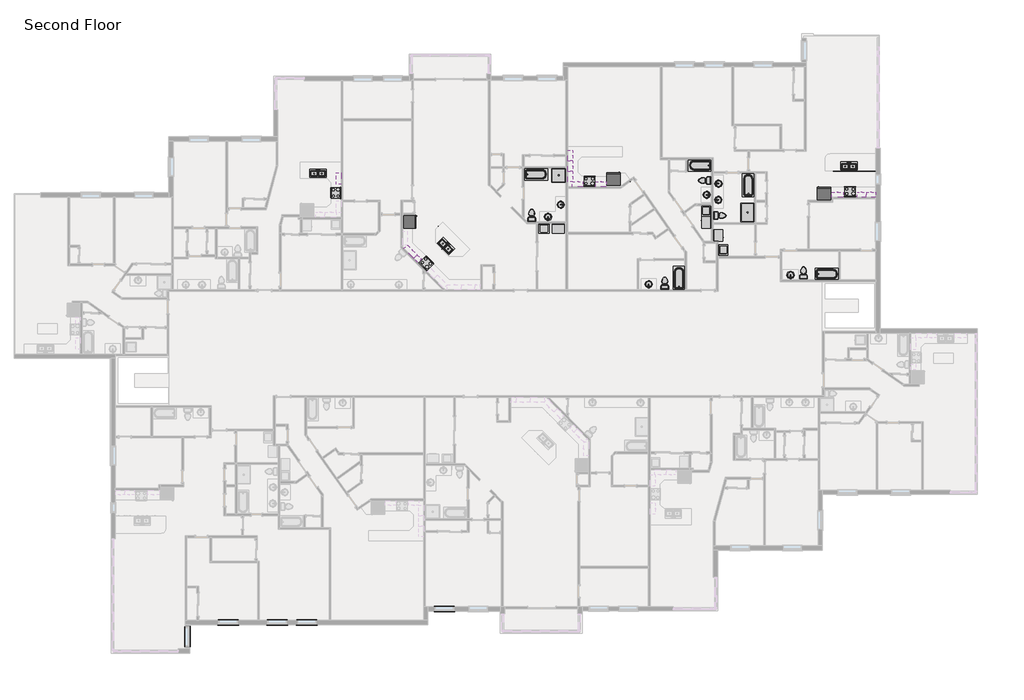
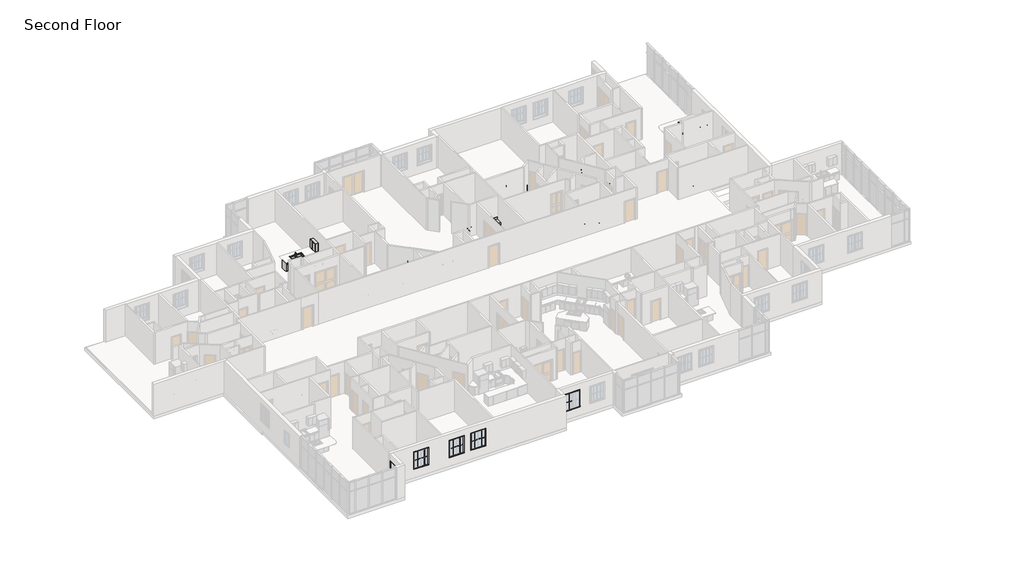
# One storey, part 16 of 17: 50 furniture elements, 32 proxies, 22 flow terminals.
"""IFC4 building model written with IfcOpenShell, lengths in millimetres."""

from ifc_helpers import new_model, si_unit, origin, place, context, project, spatial, transform, mapped, element, save
from components import proxy_6b4a07a9, muntin_pattern_2x2_muntin_pattern_2x2_6dad3731, muntin_pattern_2x2_muntin_pattern_2x2_a30a3345, proxy_fbb4c072, proxy_93150df1, proxy_9109806d, trim_window_exterior_flat_with_sill_92b9b949, trim_window_interior_flat_picture_frame_3bb882cf, proxy_718fa39f, flow_terminal_54cced83, flow_terminal_5dba0d75, flow_terminal_a53be723, flow_terminal_d49f872f, toilet_domestic_3d_toilet_domestic_3d_f7549cf7, toilet_domestic_3d_toilet_domestic_3d_183bbd19, tub_rectangular_3d_tub_rectangular_3d_72a4d900, tub_rectangular_3d_tub_rectangular_3d_cbc2c449, furniture_0fc2bd2a, furniture_337523c0, furniture_6e8794dd, furniture_07bc9410, furniture_6ace90bf, furniture_b282fead, furniture_6a014568, furniture_338da5bd, furniture_b74d3f52, furniture_7de88fd5, furniture_b4094f2d, furniture_07c0da44, furniture_bfd559e3, base_cabinet_filler_base_cabinet_filler_dff9ed13, base_cabinet_filler_base_cabinet_filler_01d9e414, base_cabinet_filler_base_cabinet_filler_890d7b95, base_cabinet_filler_base_cabinet_filler_ec835e29, base_cabinet_filler_base_cabinet_filler_5f1ac9d6, base_cabinet_filler_base_cabinet_filler_783ad0b1, base_cabinet_filler_base_cabinet_filler_ca2a3ea1, furniture_de2c603d, furniture_a8c34398, furniture_09d05a5b, furniture_b1f16c95, furniture_c6a3367d, furniture_a47b5ef4, furniture_9117db5d, furniture_b34976c1

model = new_model("IFC4")

# Units and contexts
model_context = context("Model", 3, world=origin())
ifc_project = project(units=[si_unit("LENGTHUNIT", "METRE", prefix="MILLI")], contexts=[model_context])

# Site, building, storey
site = spatial("IfcSite", under=ifc_project)
building = spatial("IfcBuilding", under=site)
storey = spatial("IfcBuildingStorey", under=building, Name="Second Floor", Elevation=3048.0)

# Proxies
placement = place(None, origin())
proxy_shape = proxy_6b4a07a9(model_context)
element("IfcBuildingElementProxy", 1, Name="Dryer : 30\" x 25\" x 35\"", ObjectType="Dryer : 30\" x 25\" x 35\"", at=placement, inside=storey, context=model_context, shape_type="MappedRepresentation", body=[
    mapped(proxy_shape, transform((35783.3803438, 6069.89864, 3048.0), x_axis=(1.0, 0.0, 0.0), y_axis=(0.0, 1.0, 0.0), z_axis=(0.0, 0.0, 1.0))),
])
element("IfcBuildingElementProxy", 2, Name="Dryer : 30\" x 25\" x 35\"", ObjectType="Dryer : 30\" x 25\" x 35\"", at=placement, inside=storey, context=model_context, shape_type="MappedRepresentation", body=[
    mapped(proxy_shape, transform((45605.9742487, 7175.2177628, 3048.0), x_axis=(0.0, -1.0, 0.0), y_axis=(1.0, 0.0, 0.0), z_axis=(0.0, 0.0, 1.0))),
])
element("IfcBuildingElementProxy", 3, Name="Dryer : 30\" x 25\" x 35\"", ObjectType="Dryer : 30\" x 25\" x 35\"", at=placement, inside=storey, context=model_context, shape_type="MappedRepresentation", body=[
    mapped(proxy_shape, transform((46984.5962563, 5488.2018914, 3048.0), x_axis=(0.0, 1.0, 0.0), y_axis=(-1.0, 0.0, 0.0), z_axis=(0.0, 0.0, 1.0))),
])
muntin_pattern_2x2_muntin_pattern_2x2_shape = muntin_pattern_2x2_muntin_pattern_2x2_6dad3731(model_context)
element("IfcBuildingElementProxy", 4, Name="Muntin Pattern_2x2 : Muntin Pattern_2x2", ObjectType="Muntin Pattern_2x2 : Muntin Pattern_2x2", at=placement, inside=storey, context=model_context, shape_type="MappedRepresentation", body=[
    mapped(muntin_pattern_2x2_muntin_pattern_2x2_shape, transform((20022.0240862, -19586.3365506, 4032.25), x_axis=(-1.0, 0.0, 0.0), y_axis=(0.0, -1.0, 0.0), z_axis=(0.0, 0.0, 1.0))),
])
element("IfcBuildingElementProxy", 5, Name="Muntin Pattern_2x2 : Muntin Pattern_2x2", ObjectType="Muntin Pattern_2x2 : Muntin Pattern_2x2", at=placement, inside=storey, context=model_context, shape_type="MappedRepresentation", body=[
    mapped(muntin_pattern_2x2_muntin_pattern_2x2_shape, transform((14867.9478712, -19586.3365506, 4032.25), x_axis=(-1.0, 0.0, 0.0), y_axis=(0.0, -1.0, 0.0), z_axis=(0.0, 0.0, 1.0))),
])
element("IfcBuildingElementProxy", 6, Name="Muntin Pattern_2x2 : Muntin Pattern_2x2", ObjectType="Muntin Pattern_2x2 : Muntin Pattern_2x2", at=placement, inside=storey, context=model_context, shape_type="MappedRepresentation", body=[
    mapped(muntin_pattern_2x2_muntin_pattern_2x2_shape, transform((18076.672872, -19586.3365506, 4032.25), x_axis=(-1.0, 0.0, 0.0), y_axis=(0.0, -1.0, 0.0), z_axis=(0.0, 0.0, 1.0))),
])
element("IfcBuildingElementProxy", 7, Name="Muntin Pattern_2x2 : Muntin Pattern_2x2", ObjectType="Muntin Pattern_2x2 : Muntin Pattern_2x2", at=placement, inside=storey, context=model_context, shape_type="MappedRepresentation", body=[
    mapped(muntin_pattern_2x2_muntin_pattern_2x2_shape, transform((12023.5634633, -20077.9243287, 4032.25), x_axis=(0.0, -1.0, 0.0), y_axis=(1.0, 0.0, 0.0), z_axis=(0.0, 0.0, 1.0))),
])
muntin_pattern_2x2_muntin_pattern_2x2_2_shape = muntin_pattern_2x2_muntin_pattern_2x2_a30a3345(model_context)
element("IfcBuildingElementProxy", 8, Name="Muntin Pattern_2x2 : Muntin Pattern_2x2", ObjectType="Muntin Pattern_2x2 : Muntin Pattern_2x2", at=placement, inside=storey, context=model_context, shape_type="MappedRepresentation", body=[
    mapped(muntin_pattern_2x2_muntin_pattern_2x2_2_shape, transform((19415.5990862, -19586.3365506, 4032.25), x_axis=(1.0, 0.0, 0.0), y_axis=(0.0, 1.0, 0.0), z_axis=(0.0, 0.0, 1.0))),
])
element("IfcBuildingElementProxy", 9, Name="Muntin Pattern_2x2 : Muntin Pattern_2x2", ObjectType="Muntin Pattern_2x2 : Muntin Pattern_2x2", at=placement, inside=storey, context=model_context, shape_type="MappedRepresentation", body=[
    mapped(muntin_pattern_2x2_muntin_pattern_2x2_2_shape, transform((14261.5228712, -19586.3365506, 4032.25), x_axis=(1.0, 0.0, 0.0), y_axis=(0.0, 1.0, 0.0), z_axis=(0.0, 0.0, 1.0))),
])
element("IfcBuildingElementProxy", 10, Name="Muntin Pattern_2x2 : Muntin Pattern_2x2", ObjectType="Muntin Pattern_2x2 : Muntin Pattern_2x2", at=placement, inside=storey, context=model_context, shape_type="MappedRepresentation", body=[
    mapped(muntin_pattern_2x2_muntin_pattern_2x2_2_shape, transform((28431.0115862, -18699.3191587, 4032.25), x_axis=(1.0, 0.0, 0.0), y_axis=(0.0, 1.0, 0.0), z_axis=(0.0, 0.0, 1.0))),
])
element("IfcBuildingElementProxy", 11, Name="Muntin Pattern_2x2 : Muntin Pattern_2x2", ObjectType="Muntin Pattern_2x2 : Muntin Pattern_2x2", at=placement, inside=storey, context=model_context, shape_type="MappedRepresentation", body=[
    mapped(muntin_pattern_2x2_muntin_pattern_2x2_2_shape, transform((17470.247872, -19586.3365506, 4032.25), x_axis=(1.0, 0.0, 0.0), y_axis=(0.0, 1.0, 0.0), z_axis=(0.0, 0.0, 1.0))),
])
element("IfcBuildingElementProxy", 12, Name="Muntin Pattern_2x2 : Muntin Pattern_2x2", ObjectType="Muntin Pattern_2x2 : Muntin Pattern_2x2", at=placement, inside=storey, context=model_context, shape_type="MappedRepresentation", body=[
    mapped(muntin_pattern_2x2_muntin_pattern_2x2_2_shape, transform((12023.5634633, -20684.3493287, 4032.25), x_axis=(0.0, 1.0, 0.0), y_axis=(-1.0, 0.0, 0.0), z_axis=(0.0, 0.0, 1.0))),
])
proxy_2_shape = proxy_fbb4c072(model_context)
element("IfcBuildingElementProxy", 13, Name="Range : 30\" x 26\"", ObjectType="Range : 30\" x 26\"", at=placement, inside=storey, context=model_context, shape_type="MappedRepresentation", body=[
    mapped(proxy_2_shape, transform((55706.1485135, 9105.3667096, 3048.0), x_axis=(-1.0, 0.0, 0.0), y_axis=(0.0, -1.0, 0.0), z_axis=(0.0, 0.0, 1.0))),
])
element("IfcBuildingElementProxy", 14, Name="Range : 30\" x 26\"", ObjectType="Range : 30\" x 26\"", at=placement, inside=storey, context=model_context, shape_type="MappedRepresentation", body=[
    mapped(proxy_2_shape, transform((38622.0783397, 9780.1410099, 3048.0), x_axis=(-1.0, 0.0, 0.0), y_axis=(0.0, -1.0, 0.0), z_axis=(0.0, 0.0, 1.0))),
])
element("IfcBuildingElementProxy", 15, Name="Range : 30\" x 26\"", ObjectType="Range : 30\" x 26\"", at=placement, inside=storey, context=model_context, shape_type="MappedRepresentation", body=[
    mapped(proxy_2_shape, transform((28043.6511381, 4045.4027795, 3048.0), x_axis=(-0.7071067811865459, 0.7071067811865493, 0.0), y_axis=(-0.7071067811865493, -0.7071067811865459, 0.0), z_axis=(0.0, 0.0, 1.0))),
])
element("IfcBuildingElementProxy", 16, Name="Range : 30\" x 26\"", ObjectType="Range : 30\" x 26\"", at=placement, inside=storey, context=model_context, shape_type="MappedRepresentation", body=[
    mapped(proxy_2_shape, transform((21305.5073571, 9084.405075, 3048.0), x_axis=(0.0, -1.0, 0.0), y_axis=(1.0, 0.0, 0.0), z_axis=(0.0, 0.0, 1.0))),
])
proxy_3_shape = proxy_93150df1(model_context)
element("IfcBuildingElementProxy", 17, Name="Refrigerator : 35\" x 32\" LH", ObjectType="Refrigerator : 35\" x 32\" LH", at=placement, inside=storey, context=model_context, shape_type="MappedRepresentation", body=[
    mapped(proxy_3_shape, transform((39817.0847694, 9590.3888634, 3048.0), x_axis=(-1.0, 0.0, 0.0), y_axis=(0.0, -1.0, 0.0), z_axis=(0.0, 0.0, 1.0))),
])
proxy_4_shape = proxy_9109806d(model_context)
element("IfcBuildingElementProxy", 18, Name="Refrigerator : 35\" x 32\" RH", ObjectType="Refrigerator : 35\" x 32\" RH", at=placement, inside=storey, context=model_context, shape_type="MappedRepresentation", body=[
    mapped(proxy_4_shape, transform((53624.9360135, 8648.9949749, 3048.0), x_axis=(-1.0, 0.0, 0.0), y_axis=(0.0, -1.0, 0.0), z_axis=(0.0, 0.0, 1.0))),
])
element("IfcBuildingElementProxy", 19, Name="Refrigerator : 35\" x 32\" RH", ObjectType="Refrigerator : 35\" x 32\" RH", at=placement, inside=storey, context=model_context, shape_type="MappedRepresentation", body=[
    mapped(proxy_4_shape, transform((26450.70388, 6811.7574244, 3048.0), x_axis=(0.0020172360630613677, 0.9999979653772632, 0.0), y_axis=(-0.9999979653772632, 0.0020172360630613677, 0.0), z_axis=(0.0, 0.0, 1.0))),
])
trim_window_exterior_flat_with_sill_shape = trim_window_exterior_flat_with_sill_92b9b949(model_context)
element("IfcBuildingElementProxy", 20, Name="Trim-Window-Exterior-Flat : with Sill", ObjectType="Trim-Window-Exterior-Flat : with Sill", at=placement, inside=storey, context=model_context, shape_type="MappedRepresentation", body=[
    mapped(trim_window_exterior_flat_with_sill_shape, transform((19718.8115862, -19595.8615506, 5486.4), x_axis=(1.0, 0.0, 0.0), y_axis=(0.0, 0.0, 1.0), z_axis=(0.0, -1.0, 0.0))),
])
element("IfcBuildingElementProxy", 21, Name="Trim-Window-Exterior-Flat : with Sill", ObjectType="Trim-Window-Exterior-Flat : with Sill", at=placement, inside=storey, context=model_context, shape_type="MappedRepresentation", body=[
    mapped(trim_window_exterior_flat_with_sill_shape, transform((14564.7353712, -19595.8615506, 5486.4), x_axis=(1.0, 0.0, 0.0), y_axis=(0.0, 0.0, 1.0), z_axis=(0.0, -1.0, 0.0))),
])
element("IfcBuildingElementProxy", 22, Name="Trim-Window-Exterior-Flat : with Sill", ObjectType="Trim-Window-Exterior-Flat : with Sill", at=placement, inside=storey, context=model_context, shape_type="MappedRepresentation", body=[
    mapped(trim_window_exterior_flat_with_sill_shape, transform((28734.2240862, -18708.8441587, 5486.4), x_axis=(1.0, 0.0, 0.0), y_axis=(0.0, 0.0, 1.0), z_axis=(0.0, -1.0, 0.0))),
])
element("IfcBuildingElementProxy", 23, Name="Trim-Window-Exterior-Flat : with Sill", ObjectType="Trim-Window-Exterior-Flat : with Sill", at=placement, inside=storey, context=model_context, shape_type="MappedRepresentation", body=[
    mapped(trim_window_exterior_flat_with_sill_shape, transform((17773.460372, -19595.8615506, 5486.4), x_axis=(1.0, 0.0, 0.0), y_axis=(0.0, 0.0, 1.0), z_axis=(0.0, -1.0, 0.0))),
])
element("IfcBuildingElementProxy", 24, Name="Trim-Window-Exterior-Flat : with Sill", ObjectType="Trim-Window-Exterior-Flat : with Sill", at=placement, inside=storey, context=model_context, shape_type="MappedRepresentation", body=[
    mapped(trim_window_exterior_flat_with_sill_shape, transform((12033.0884633, -20381.1368287, 5486.4), x_axis=(0.0, 1.0, 0.0), y_axis=(0.0, 0.0, 1.0), z_axis=(1.0, 0.0, 0.0))),
])
trim_window_interior_flat_picture_frame_shape = trim_window_interior_flat_picture_frame_3bb882cf(model_context)
element("IfcBuildingElementProxy", 25, Name="Trim-Window-Interior-Flat : Picture Frame", ObjectType="Trim-Window-Interior-Flat : Picture Frame", at=placement, inside=storey, context=model_context, shape_type="MappedRepresentation", body=[
    mapped(trim_window_interior_flat_picture_frame_shape, transform((19718.8115862, -19313.2865506, 5486.4), x_axis=(-1.0, 0.0, 0.0), y_axis=(0.0, 0.0, 1.0), z_axis=(0.0, 1.0, 0.0))),
])
element("IfcBuildingElementProxy", 26, Name="Trim-Window-Interior-Flat : Picture Frame", ObjectType="Trim-Window-Interior-Flat : Picture Frame", at=placement, inside=storey, context=model_context, shape_type="MappedRepresentation", body=[
    mapped(trim_window_interior_flat_picture_frame_shape, transform((14564.7353712, -19313.2865506, 5486.4), x_axis=(-1.0, 0.0, 0.0), y_axis=(0.0, 0.0, 1.0), z_axis=(0.0, 1.0, 0.0))),
])
element("IfcBuildingElementProxy", 27, Name="Trim-Window-Interior-Flat : Picture Frame", ObjectType="Trim-Window-Interior-Flat : Picture Frame", at=placement, inside=storey, context=model_context, shape_type="MappedRepresentation", body=[
    mapped(trim_window_interior_flat_picture_frame_shape, transform((28734.2240862, -18426.2691587, 5486.4), x_axis=(-1.0, 0.0, 0.0), y_axis=(0.0, 0.0, 1.0), z_axis=(0.0, 1.0, 0.0))),
])
element("IfcBuildingElementProxy", 28, Name="Trim-Window-Interior-Flat : Picture Frame", ObjectType="Trim-Window-Interior-Flat : Picture Frame", at=placement, inside=storey, context=model_context, shape_type="MappedRepresentation", body=[
    mapped(trim_window_interior_flat_picture_frame_shape, transform((17773.460372, -19313.2865506, 5486.4), x_axis=(-1.0, 0.0, 0.0), y_axis=(0.0, 0.0, 1.0), z_axis=(0.0, 1.0, 0.0))),
])
element("IfcBuildingElementProxy", 29, Name="Trim-Window-Interior-Flat : Picture Frame", ObjectType="Trim-Window-Interior-Flat : Picture Frame", at=placement, inside=storey, context=model_context, shape_type="MappedRepresentation", body=[
    mapped(trim_window_interior_flat_picture_frame_shape, transform((11750.5134633, -20381.1368287, 5486.4), x_axis=(0.0, -1.0, 0.0), y_axis=(0.0, 0.0, 1.0), z_axis=(-1.0, 0.0, 0.0))),
])
proxy_5_shape = proxy_718fa39f(model_context)
element("IfcBuildingElementProxy", 30, Name="Washer : 27\" x 25\" x 35\"", ObjectType="Washer : 27\" x 25\" x 35\"", at=placement, inside=storey, context=model_context, shape_type="MappedRepresentation", body=[
    mapped(proxy_5_shape, transform((34845.0746645, 6105.410079, 3048.0), x_axis=(1.0, 0.0, 0.0), y_axis=(0.0, 1.0, 0.0), z_axis=(0.0, 0.0, 1.0))),
])
element("IfcBuildingElementProxy", 31, Name="Washer : 27\" x 25\" x 35\"", ObjectType="Washer : 27\" x 25\" x 35\"", at=placement, inside=storey, context=model_context, shape_type="MappedRepresentation", body=[
    mapped(proxy_5_shape, transform((47265.412252, 4547.012838, 3048.0), x_axis=(0.0, 1.0, 0.0), y_axis=(-1.0, 0.0, 0.0), z_axis=(0.0, 0.0, 1.0))),
])
element("IfcBuildingElementProxy", 32, Name="Washer : 27\" x 25\" x 35\"", ObjectType="Washer : 27\" x 25\" x 35\"", at=placement, inside=storey, context=model_context, shape_type="MappedRepresentation", body=[
    mapped(proxy_5_shape, transform((45641.4856877, 7942.380883, 3048.0), x_axis=(0.0, -1.0, 0.0), y_axis=(1.0, 0.0, 0.0), z_axis=(0.0, 0.0, 1.0))),
])

# Flow terminals
flow_terminal_shape = flow_terminal_54cced83(model_context)
element("IfcFlowTerminal", 33, ObjectType="Shower Base-3D : 36\" x 36\"", at=placement, inside=storey, context=model_context, shape_type="MappedRepresentation", body=[
    mapped(flow_terminal_shape, transform((36225.8678001, 9849.9910099, 3048.0), x_axis=(1.0, 0.0, 0.0), y_axis=(0.0, 1.0, 0.0), z_axis=(0.0, 0.0, 1.0))),
])
flow_terminal_2_shape = flow_terminal_5dba0d75(model_context)
element("IfcFlowTerminal", 34, ObjectType="Shower Base-3D : 48\" x 34\"", at=placement, inside=storey, context=model_context, shape_type="MappedRepresentation", body=[
    mapped(flow_terminal_2_shape, transform((48606.6852525, 7416.8, 3048.0), x_axis=(0.0, 1.0, 0.0), y_axis=(-1.0, 0.0, 0.0), z_axis=(0.0, 0.0, 1.0))),
])
flow_terminal_3_shape = flow_terminal_a53be723(model_context)
element("IfcFlowTerminal", 35, ObjectType="Sink Kitchen-Double : 42\" x 21\"", at=placement, inside=storey, context=model_context, shape_type="MappedRepresentation", body=[
    mapped(flow_terminal_3_shape, transform((55238.0740966, 10470.4786098, 3048.0), x_axis=(1.0, 0.0, 0.0), y_axis=(0.0, 1.0, 0.0), z_axis=(0.0, 0.0, 1.0))),
])
element("IfcFlowTerminal", 36, ObjectType="Sink Kitchen-Double : 42\" x 21\"", at=placement, inside=storey, context=model_context, shape_type="MappedRepresentation", body=[
    mapped(flow_terminal_3_shape, transform((28820.7305792, 5237.5515776, 3048.0), x_axis=(0.7071067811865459, -0.7071067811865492, 0.0), y_axis=(0.7071067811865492, 0.7071067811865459, 0.0), z_axis=(0.0, 0.0, 1.0))),
])
element("IfcFlowTerminal", 37, ObjectType="Sink Kitchen-Double : 42\" x 21\"", at=placement, inside=storey, context=model_context, shape_type="MappedRepresentation", body=[
    mapped(flow_terminal_3_shape, transform((20432.5681165, 9996.4596739, 3048.0), x_axis=(1.0, 0.0, 0.0), y_axis=(0.0, 1.0, 0.0), z_axis=(0.0, 0.0, 1.0))),
])
flow_terminal_4_shape = flow_terminal_d49f872f(model_context)
element("IfcFlowTerminal", 38, ObjectType="Sink Vanity-Round : 19\" x 19\"", at=placement, inside=storey, context=model_context, shape_type="MappedRepresentation", body=[
    mapped(flow_terminal_4_shape, transform((51518.9261462, 3402.5686234, 3048.0), x_axis=(-1.0, 0.0, 0.0), y_axis=(0.0, -1.0, 0.0), z_axis=(0.0, 0.0, 1.0))),
])
element("IfcFlowTerminal", 39, ObjectType="Sink Vanity-Round : 19\" x 19\"", at=placement, inside=storey, context=model_context, shape_type="MappedRepresentation", body=[
    mapped(flow_terminal_4_shape, transform((46769.360735, 8145.114969, 3048.0), x_axis=(0.0, 1.0, 0.0), y_axis=(-1.0, 0.0, 0.0), z_axis=(0.0, 0.0, 1.0))),
])
element("IfcFlowTerminal", 40, ObjectType="Sink Vanity-Round : 19\" x 19\"", at=placement, inside=storey, context=model_context, shape_type="MappedRepresentation", body=[
    mapped(flow_terminal_4_shape, transform((46781.1377403, 9211.914969, 3048.0), x_axis=(0.0, 1.0, 0.0), y_axis=(-1.0, 0.0, 0.0), z_axis=(0.0, 0.0, 1.0))),
])
element("IfcFlowTerminal", 41, ObjectType="Sink Vanity-Round : 19\" x 19\"", at=placement, inside=storey, context=model_context, shape_type="MappedRepresentation", body=[
    mapped(flow_terminal_4_shape, transform((42218.0028589, 2791.1233129, 3048.0), x_axis=(-1.0, 0.0, 0.0), y_axis=(0.0, -1.0, 0.0), z_axis=(0.0, 0.0, 1.0))),
])
element("IfcFlowTerminal", 42, ObjectType="Sink Vanity-Round : 19\" x 19\"", at=placement, inside=storey, context=model_context, shape_type="MappedRepresentation", body=[
    mapped(flow_terminal_4_shape, transform((36278.8834938, 8026.036859, 3048.0), x_axis=(-0.0012471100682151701, -0.9999992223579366, 0.0), y_axis=(0.9999992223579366, -0.0012471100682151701, 0.0), z_axis=(0.0, 0.0, 1.0))),
])
element("IfcFlowTerminal", 43, ObjectType="Sink Vanity-Round : 19\" x 19\"", at=placement, inside=storey, context=model_context, shape_type="MappedRepresentation", body=[
    mapped(flow_terminal_4_shape, transform((35619.8891254, 7212.353211, 3048.0), x_axis=(-0.9999968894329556, 0.002494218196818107, 0.0), y_axis=(-0.002494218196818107, -0.9999968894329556, 0.0), z_axis=(0.0, 0.0, 1.0))),
])
element("IfcFlowTerminal", 44, ObjectType="Sink Vanity-Round : 19\" x 19\"", at=placement, inside=storey, context=model_context, shape_type="MappedRepresentation", body=[
    mapped(flow_terminal_4_shape, transform((45838.1211111, 8667.3095625, 3048.0), x_axis=(0.0, -1.0, 0.0), y_axis=(1.0, 0.0, 0.0), z_axis=(0.0, 0.0, 1.0))),
])
toilet_domestic_3d_toilet_domestic_3d_shape = toilet_domestic_3d_toilet_domestic_3d_f7549cf7(model_context)
toilet_domestic_3d_toilet_domestic_3d_2_shape = toilet_domestic_3d_toilet_domestic_3d_183bbd19(model_context)
element("IfcFlowTerminal", 45, ObjectType="Toilet-Domestic-3D : Toilet-Domestic-3D", at=placement, inside=storey, context=model_context, shape_type="MappedRepresentation", body=[
    mapped(toilet_domestic_3d_toilet_domestic_3d_shape, transform((52273.7982354, 3556.0, 3048.0), x_axis=(-1.0, 0.0, 0.0), y_axis=(0.0, -1.0, 0.0), z_axis=(0.0, 0.0, 1.0))),
    mapped(toilet_domestic_3d_toilet_domestic_3d_2_shape, transform((52273.7982354, 3556.0, 3048.0), x_axis=(-1.0, 0.0, 0.0), y_axis=(0.0, -1.0, 0.0), z_axis=(0.0, 0.0, 1.0))),
])
element("IfcFlowTerminal", 46, ObjectType="Toilet-Domestic-3D : Toilet-Domestic-3D", at=placement, inside=storey, context=model_context, shape_type="MappedRepresentation", body=[
    mapped(toilet_domestic_3d_toilet_domestic_3d_shape, transform((46888.4, 7213.6, 3048.0), x_axis=(0.0, 1.0, 0.0), y_axis=(-1.0, 0.0, 0.0), z_axis=(0.0, 0.0, 1.0))),
    mapped(toilet_domestic_3d_toilet_domestic_3d_2_shape, transform((46888.4, 7213.6, 3048.0), x_axis=(0.0, 1.0, 0.0), y_axis=(-1.0, 0.0, 0.0), z_axis=(0.0, 0.0, 1.0))),
])
element("IfcFlowTerminal", 47, ObjectType="Toilet-Domestic-3D : Toilet-Domestic-3D", at=placement, inside=storey, context=model_context, shape_type="MappedRepresentation", body=[
    mapped(toilet_domestic_3d_toilet_domestic_3d_shape, transform((45694.6, 9512.0893477, 3048.0), x_axis=(0.0, -1.0, 0.0), y_axis=(1.0, 0.0, 0.0), z_axis=(0.0, 0.0, 1.0))),
    mapped(toilet_domestic_3d_toilet_domestic_3d_2_shape, transform((45694.6, 9512.0893477, 3048.0), x_axis=(0.0, -1.0, 0.0), y_axis=(1.0, 0.0, 0.0), z_axis=(0.0, 0.0, 1.0))),
])
element("IfcFlowTerminal", 48, ObjectType="Toilet-Domestic-3D : Toilet-Domestic-3D", at=placement, inside=storey, context=model_context, shape_type="MappedRepresentation", body=[
    mapped(toilet_domestic_3d_toilet_domestic_3d_shape, transform((43180.0, 2882.9, 3048.0), x_axis=(-1.0, 0.0, 0.0), y_axis=(0.0, -1.0, 0.0), z_axis=(0.0, 0.0, 1.0))),
    mapped(toilet_domestic_3d_toilet_domestic_3d_2_shape, transform((43180.0, 2882.9, 3048.0), x_axis=(-1.0, 0.0, 0.0), y_axis=(0.0, -1.0, 0.0), z_axis=(0.0, 0.0, 1.0))),
])
element("IfcFlowTerminal", 49, ObjectType="Toilet-Domestic-3D : Toilet-Domestic-3D", at=placement, inside=storey, context=model_context, shape_type="MappedRepresentation", body=[
    mapped(toilet_domestic_3d_toilet_domestic_3d_shape, transform((34456.7727327, 7333.4715848, 3048.0), x_axis=(-1.0, 0.0, 0.0), y_axis=(0.0, -1.0, 0.0), z_axis=(0.0, 0.0, 1.0))),
    mapped(toilet_domestic_3d_toilet_domestic_3d_2_shape, transform((34456.7727327, 7333.4715848, 3048.0), x_axis=(-1.0, 0.0, 0.0), y_axis=(0.0, -1.0, 0.0), z_axis=(0.0, 0.0, 1.0))),
])
tub_rectangular_3d_tub_rectangular_3d_shape = tub_rectangular_3d_tub_rectangular_3d_72a4d900(model_context)
element("IfcFlowTerminal", 50, ObjectType="Tub-Rectangular-3D : Tub-Rectangular-3D", at=placement, inside=storey, context=model_context, shape_type="MappedRepresentation", body=[
    mapped(tub_rectangular_3d_tub_rectangular_3d_shape, transform((44549.1449591, 3463.6121401, 3048.0), x_axis=(0.0, 1.0, 0.0), y_axis=(-1.0, 0.0, 0.0), z_axis=(0.0, 0.0, 1.0))),
])
element("IfcFlowTerminal", 51, ObjectType="Tub-Rectangular-3D : Tub-Rectangular-3D", at=placement, inside=storey, context=model_context, shape_type="MappedRepresentation", body=[
    mapped(tub_rectangular_3d_tub_rectangular_3d_shape, transform((45138.2869119, 10944.1378349, 3048.0), x_axis=(-1.0, 0.0, 0.0), y_axis=(0.0, -1.0, 0.0), z_axis=(0.0, 0.0, 1.0))),
])
element("IfcFlowTerminal", 52, ObjectType="Tub-Rectangular-3D : Tub-Rectangular-3D", at=placement, inside=storey, context=model_context, shape_type="MappedRepresentation", body=[
    mapped(tub_rectangular_3d_tub_rectangular_3d_shape, transform((49089.4772963, 9555.5696783, 3048.0), x_axis=(0.0, 1.0, 0.0), y_axis=(-1.0, 0.0, 0.0), z_axis=(0.0, 0.0, 1.0))),
])
element("IfcFlowTerminal", 53, ObjectType="Tub-Rectangular-3D : Tub-Rectangular-3D", at=placement, inside=storey, context=model_context, shape_type="MappedRepresentation", body=[
    mapped(tub_rectangular_3d_tub_rectangular_3d_shape, transform((54149.0676523, 2945.4044819, 3048.0), x_axis=(1.0, 0.0, 0.0), y_axis=(0.0, 1.0, 0.0), z_axis=(0.0, 0.0, 1.0))),
])
tub_rectangular_3d_tub_rectangular_3d_2_shape = tub_rectangular_3d_tub_rectangular_3d_cbc2c449(model_context)
element("IfcFlowTerminal", 54, ObjectType="Tub-Rectangular-3D : Tub-Rectangular-3D", at=placement, inside=storey, context=model_context, shape_type="MappedRepresentation", body=[
    mapped(tub_rectangular_3d_tub_rectangular_3d_2_shape, transform((35083.0533193, 10357.9910099, 3048.0), x_axis=(1.0, 0.0, 0.0), y_axis=(0.0, 1.0, 0.0), z_axis=(0.0, 0.0, 1.0))),
])

# Furniture
furniture_shape = furniture_0fc2bd2a(model_context)
element("IfcFurniture", 55, ObjectType="Base Cabinet-Single Door & Drawer : 15\"'", at=placement, inside=storey, context=model_context, shape_type="MappedRepresentation", body=[
    mapped(furniture_shape, transform((56797.1256323, 10752.2240109, 3048.0), x_axis=(1.0, 0.0, 0.0), y_axis=(0.0, 1.0, 0.0), z_axis=(0.0, 0.0, 1.0))),
])
element("IfcFurniture", 56, ObjectType="Base Cabinet-Single Door & Drawer : 15\"'", at=placement, inside=storey, context=model_context, shape_type="MappedRepresentation", body=[
    mapped(furniture_shape, transform((26379.2350583, 4778.534813, 3048.0), x_axis=(-0.7056789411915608, 0.7085317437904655, 0.0), y_axis=(-0.7085317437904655, -0.7056789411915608, 0.0), z_axis=(0.0, 0.0, 1.0))),
])
furniture_2_shape = furniture_337523c0(model_context)
element("IfcFurniture", 57, ObjectType="Base Cabinet-Single Door & Drawer : 12\"", at=placement, inside=storey, context=model_context, shape_type="MappedRepresentation", body=[
    mapped(furniture_2_shape, transform((21965.9073571, 8151.2673701, 3048.0), x_axis=(0.0, 1.0, 0.0), y_axis=(-1.0, 0.0, 0.0), z_axis=(0.0, 0.0, 1.0))),
])
furniture_3_shape = furniture_6e8794dd(model_context)
element("IfcFurniture", 58, ObjectType="Base Cabinet-Single Door & Drawer : 12\"", at=placement, inside=storey, context=model_context, shape_type="MappedRepresentation", body=[
    mapped(furniture_3_shape, transform((21965.9073571, 9255.5427799, 3048.0), x_axis=(0.0, -1.0, 0.0), y_axis=(1.0, 0.0, 0.0), z_axis=(0.0, 0.0, 1.0))),
])
furniture_4_shape = furniture_07bc9410(model_context)
element("IfcFurniture", 59, ObjectType="Base Cabinet-Single Door & Drawer : 18\"", at=placement, inside=storey, context=model_context, shape_type="MappedRepresentation", body=[
    mapped(furniture_4_shape, transform((56766.9108085, 8422.9542414, 3048.0), x_axis=(1.0, 0.0, 0.0), y_axis=(0.0, 1.0, 0.0), z_axis=(0.0, 0.0, 1.0))),
])
furniture_5_shape = furniture_6ace90bf(model_context)
element("IfcFurniture", 60, ObjectType="Base Cabinet-Single Door & Drawer : 18\"", at=placement, inside=storey, context=model_context, shape_type="MappedRepresentation", body=[
    mapped(furniture_5_shape, transform((54396.8256323, 10752.2240109, 3048.0), x_axis=(1.0, 0.0, 0.0), y_axis=(0.0, 1.0, 0.0), z_axis=(0.0, 0.0, 1.0))),
])
element("IfcFurniture", 61, ObjectType="Base Cabinet-Single Door & Drawer : 18\"", at=placement, inside=storey, context=model_context, shape_type="MappedRepresentation", body=[
    mapped(furniture_5_shape, transform((40152.0280135, 11733.611548, 3048.0), x_axis=(1.0, 0.0, 0.0), y_axis=(0.0, 1.0, 0.0), z_axis=(0.0, 0.0, 1.0))),
])
furniture_6_shape = furniture_b282fead(model_context)
element("IfcFurniture", 62, ObjectType="Base Cabinet-Single Door & Drawer : 21\"", at=placement, inside=storey, context=model_context, shape_type="MappedRepresentation", body=[
    mapped(furniture_6_shape, transform((19553.2196522, 10303.605075, 3048.0), x_axis=(1.0, 0.0, 0.0), y_axis=(0.0, 1.0, 0.0), z_axis=(0.0, 0.0, 1.0))),
])
furniture_7_shape = furniture_6a014568(model_context)
element("IfcFurniture", 63, ObjectType="Base Cabinet-Single Door & Drawer : 24\"", at=placement, inside=storey, context=model_context, shape_type="MappedRepresentation", body=[
    mapped(furniture_7_shape, transform((28846.7325549, 6103.4702041, 3048.0), x_axis=(-0.7071067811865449, -0.7071067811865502, 0.0), y_axis=(0.7071067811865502, -0.7071067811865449, 0.0), z_axis=(0.0, 0.0, 1.0))),
])
element("IfcFurniture", 64, ObjectType="Base Cabinet-Single Door & Drawer : 24\"", at=placement, inside=storey, context=model_context, shape_type="MappedRepresentation", body=[
    mapped(furniture_7_shape, transform((29682.3380261, 5214.8665001, 3048.0), x_axis=(0.7071067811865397, 0.7071067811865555, 0.0), y_axis=(-0.7071067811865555, 0.7071067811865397, 0.0), z_axis=(0.0, 0.0, 1.0))),
])
furniture_8_shape = furniture_338da5bd(model_context)
element("IfcFurniture", 65, ObjectType="Base Cabinet-Double Door & 2 Drawer : 30\"", at=placement, inside=storey, context=model_context, shape_type="MappedRepresentation", body=[
    mapped(furniture_8_shape, transform((56225.6256323, 10752.2240109, 3048.0), x_axis=(1.0, 0.0, 0.0), y_axis=(0.0, 1.0, 0.0), z_axis=(0.0, 0.0, 1.0))),
])
element("IfcFurniture", 66, ObjectType="Base Cabinet-Double Door & 2 Drawer : 30\"", at=placement, inside=storey, context=model_context, shape_type="MappedRepresentation", body=[
    mapped(furniture_8_shape, transform((36816.4178001, 10406.7738431, 3048.0), x_axis=(0.0, 1.0, 0.0), y_axis=(-1.0, 0.0, 0.0), z_axis=(0.0, 0.0, 1.0))),
])
element("IfcFurniture", 67, ObjectType="Base Cabinet-Double Door & 2 Drawer : 30\"", at=placement, inside=storey, context=model_context, shape_type="MappedRepresentation", body=[
    mapped(furniture_8_shape, transform((39016.6724743, 9119.7410099, 3048.0), x_axis=(-1.0, 0.0, 0.0), y_axis=(0.0, -1.0, 0.0), z_axis=(0.0, 0.0, 1.0))),
])
furniture_9_shape = furniture_b74d3f52(model_context)
element("IfcFurniture", 68, ObjectType="Base Cabinet-Double Door & 2 Drawer : 33\"", at=placement, inside=storey, context=model_context, shape_type="MappedRepresentation", body=[
    mapped(furniture_9_shape, transform((56106.5108085, 8422.9542414, 3048.0), x_axis=(1.0, 0.0, 0.0), y_axis=(0.0, 1.0, 0.0), z_axis=(0.0, 0.0, 1.0))),
])
furniture_10_shape = furniture_7de88fd5(model_context)
element("IfcFurniture", 69, ObjectType="Base Cabinet-Double Door & 2 Drawer : 33\"", at=placement, inside=storey, context=model_context, shape_type="MappedRepresentation", body=[
    mapped(furniture_10_shape, transform((54543.7862184, 8422.9542414, 3048.0), x_axis=(-1.0, 0.0, 0.0), y_axis=(0.0, -1.0, 0.0), z_axis=(0.0, 0.0, 1.0))),
])
furniture_11_shape = furniture_b4094f2d(model_context)
element("IfcFurniture", 70, ObjectType="Base Cabinet-Double Door & 2 Drawer : 39\"", at=placement, inside=storey, context=model_context, shape_type="MappedRepresentation", body=[
    mapped(furniture_11_shape, transform((38207.3800952, 11733.611548, 3048.0), x_axis=(1.0, 0.0, 0.0), y_axis=(0.0, 1.0, 0.0), z_axis=(0.0, 0.0, 1.0))),
])
furniture_12_shape = furniture_07c0da44(model_context)
element("IfcFurniture", 71, ObjectType="Base Cabinet-Double Door & 2 Drawer : 48\"", at=placement, inside=storey, context=model_context, shape_type="MappedRepresentation", body=[
    mapped(furniture_12_shape, transform((55235.0256323, 10752.2240109, 3048.0), x_axis=(1.0, 0.0, 0.0), y_axis=(0.0, 1.0, 0.0), z_axis=(0.0, 0.0, 1.0))),
])
element("IfcFurniture", 72, ObjectType="Base Cabinet-Double Door & 2 Drawer : 48\"", at=placement, inside=storey, context=model_context, shape_type="MappedRepresentation", body=[
    mapped(furniture_12_shape, transform((39313.8280135, 11733.611548, 3048.0), x_axis=(1.0, 0.0, 0.0), y_axis=(0.0, 1.0, 0.0), z_axis=(0.0, 0.0, 1.0))),
])
element("IfcFurniture", 73, ObjectType="Base Cabinet-Double Door & 2 Drawer : 48\"", at=placement, inside=storey, context=model_context, shape_type="MappedRepresentation", body=[
    mapped(furniture_12_shape, transform((29035.7595853, 5456.8917634, 3048.0), x_axis=(0.7071067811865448, -0.7071067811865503, 0.0), y_axis=(0.7071067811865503, 0.7071067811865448, 0.0), z_axis=(0.0, 0.0, 1.0))),
])
element("IfcFurniture", 74, ObjectType="Base Cabinet-Double Door & 2 Drawer : 48\"", at=placement, inside=storey, context=model_context, shape_type="MappedRepresentation", body=[
    mapped(furniture_12_shape, transform((29062.2587018, 5430.392647, 3048.0), x_axis=(-0.7071067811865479, 0.7071067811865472, 0.0), y_axis=(-0.7071067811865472, -0.7071067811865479, 0.0), z_axis=(0.0, 0.0, 1.0))),
])
element("IfcFurniture", 75, ObjectType="Base Cabinet-Double Door & 2 Drawer : 48\"", at=placement, inside=storey, context=model_context, shape_type="MappedRepresentation", body=[
    mapped(furniture_12_shape, transform((20429.5196522, 10303.605075, 3048.0), x_axis=(1.0, 0.0, 0.0), y_axis=(0.0, 1.0, 0.0), z_axis=(0.0, 0.0, 1.0))),
])
furniture_13_shape = furniture_bfd559e3(model_context)
element("IfcFurniture", 76, ObjectType="Base Cabinet-Corner Unit-Angled : 36\"", at=placement, inside=storey, context=model_context, shape_type="MappedRepresentation", body=[
    mapped(furniture_13_shape, transform((36816.4178001, 11206.8738431, 3048.0), x_axis=(0.0, 1.0, 0.0), y_axis=(-1.0, 0.0, 0.0), z_axis=(0.0, 0.0, 1.0))),
])
element("IfcFurniture", 77, ObjectType="Base Cabinet-Corner Unit-Angled : 36\"", at=placement, inside=storey, context=model_context, shape_type="MappedRepresentation", body=[
    mapped(furniture_13_shape, transform((37343.155505, 9119.7410099, 3048.0), x_axis=(-1.0, 0.0, 0.0), y_axis=(0.0, -1.0, 0.0), z_axis=(0.0, 0.0, 1.0))),
])
element("IfcFurniture", 78, ObjectType="Base Cabinet-Corner Unit-Angled : 36\"", at=placement, inside=storey, context=model_context, shape_type="MappedRepresentation", body=[
    mapped(furniture_13_shape, transform((21445.5196522, 10303.605075, 3048.0), x_axis=(1.0, 0.0, 0.0), y_axis=(0.0, 1.0, 0.0), z_axis=(0.0, 0.0, 1.0))),
])
base_cabinet_filler_base_cabinet_filler_shape = base_cabinet_filler_base_cabinet_filler_dff9ed13(model_context)
element("IfcFurniture", 79, ObjectType="Base Cabinet-Filler : Base Cabinet-Filler", at=placement, inside=storey, context=model_context, shape_type="MappedRepresentation", body=[
    mapped(base_cabinet_filler_base_cabinet_filler_shape, transform((56569.4362184, 8422.9542414, 3048.0), x_axis=(-1.0, 0.0, 0.0), y_axis=(0.0, -1.0, 0.0), z_axis=(0.0, 0.0, 1.0))),
])
element("IfcFurniture", 80, ObjectType="Base Cabinet-Filler : Base Cabinet-Filler", at=placement, inside=storey, context=model_context, shape_type="MappedRepresentation", body=[
    mapped(base_cabinet_filler_base_cabinet_filler_shape, transform((36816.4178001, 10794.1238431, 3048.0), x_axis=(0.0, 1.0, 0.0), y_axis=(-1.0, 0.0, 0.0), z_axis=(0.0, 0.0, 1.0))),
])
base_cabinet_filler_base_cabinet_filler_2_shape = base_cabinet_filler_base_cabinet_filler_01d9e414(model_context)
element("IfcFurniture", 81, ObjectType="Base Cabinet-Filler : Base Cabinet-Filler", at=placement, inside=storey, context=model_context, shape_type="MappedRepresentation", body=[
    mapped(base_cabinet_filler_base_cabinet_filler_2_shape, transform((54103.2549684, 8422.9542414, 3048.0), x_axis=(-1.0, 0.0, 0.0), y_axis=(0.0, -1.0, 0.0), z_axis=(0.0, 0.0, 1.0))),
])
base_cabinet_filler_base_cabinet_filler_3_shape = base_cabinet_filler_base_cabinet_filler_890d7b95(model_context)
element("IfcFurniture", 82, ObjectType="Base Cabinet-Filler : Base Cabinet-Filler", at=placement, inside=storey, context=model_context, shape_type="MappedRepresentation", body=[
    mapped(base_cabinet_filler_base_cabinet_filler_3_shape, transform((37814.1857749, 9119.7410099, 3048.0), x_axis=(-1.0, 0.0, 0.0), y_axis=(0.0, -1.0, 0.0), z_axis=(0.0, 0.0, 1.0))),
])
base_cabinet_filler_base_cabinet_filler_4_shape = base_cabinet_filler_base_cabinet_filler_ec835e29(model_context)
element("IfcFurniture", 83, ObjectType="Base Cabinet-Filler : Base Cabinet-Filler", at=placement, inside=storey, context=model_context, shape_type="MappedRepresentation", body=[
    mapped(base_cabinet_filler_base_cabinet_filler_4_shape, transform((36816.4178001, 10020.588574, 3048.0), x_axis=(0.0, 1.0, 0.0), y_axis=(-1.0, 0.0, 0.0), z_axis=(0.0, 0.0, 1.0))),
])
base_cabinet_filler_base_cabinet_filler_5_shape = base_cabinet_filler_base_cabinet_filler_5f1ac9d6(model_context)
element("IfcFurniture", 84, ObjectType="Base Cabinet-Filler : Base Cabinet-Filler", at=placement, inside=storey, context=model_context, shape_type="MappedRepresentation", body=[
    mapped(base_cabinet_filler_base_cabinet_filler_5_shape, transform((26218.4790677, 4939.8859635, 3048.0), x_axis=(-0.7071067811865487, 0.7071067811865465, 0.0), y_axis=(-0.7071067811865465, -0.7071067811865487, 0.0), z_axis=(0.0, 0.0, 1.0))),
])
base_cabinet_filler_base_cabinet_filler_6_shape = base_cabinet_filler_base_cabinet_filler_783ad0b1(model_context)
element("IfcFurniture", 85, ObjectType="Base Cabinet-Filler : Base Cabinet-Filler", at=placement, inside=storey, context=model_context, shape_type="MappedRepresentation", body=[
    mapped(base_cabinet_filler_base_cabinet_filler_6_shape, transform((40434.2606244, 9359.1610724, 3048.0), x_axis=(-1.0, 0.0, 0.0), y_axis=(0.0, -1.0, 0.0), z_axis=(0.0, 0.0, 1.0))),
])
base_cabinet_filler_base_cabinet_filler_7_shape = base_cabinet_filler_base_cabinet_filler_ca2a3ea1(model_context)
element("IfcFurniture", 86, ObjectType="Base Cabinet-Filler : Base Cabinet-Filler", at=placement, inside=storey, context=model_context, shape_type="MappedRepresentation", body=[
    mapped(base_cabinet_filler_base_cabinet_filler_7_shape, transform((40263.4113047, 9344.8085699, 3048.0), x_axis=(-0.573576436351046, 0.8191520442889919, 0.0), y_axis=(-0.8191520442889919, -0.573576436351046, 0.0), z_axis=(0.0, 0.0, 1.0))),
])
furniture_14_shape = furniture_de2c603d(model_context)
element("IfcFurniture", 87, ObjectType="Upper Cabinet-Double Door-Wall : 24\"", at=placement, inside=storey, context=model_context, shape_type="MappedRepresentation", body=[
    mapped(furniture_14_shape, transform((56674.1251076, 8368.7667096, 3048.0), x_axis=(1.0, 0.0, 0.0), y_axis=(0.0, 1.0, 0.0), z_axis=(0.0, 0.0, 1.0))),
])
element("IfcFurniture", 88, ObjectType="Upper Cabinet-Double Door-Wall : 24\"", at=placement, inside=storey, context=model_context, shape_type="MappedRepresentation", body=[
    mapped(furniture_14_shape, transform((56064.5251076, 8368.7667096, 3048.0), x_axis=(1.0, 0.0, 0.0), y_axis=(0.0, 1.0, 0.0), z_axis=(0.0, 0.0, 1.0))),
])
furniture_15_shape = furniture_a8c34398(model_context)
element("IfcFurniture", 89, ObjectType="Upper Cabinet-Double Door-Wall : 27\"", at=placement, inside=storey, context=model_context, shape_type="MappedRepresentation", body=[
    mapped(furniture_15_shape, transform((38964.6966373, 9062.5910099, 3048.0), x_axis=(1.0, 0.0, 0.0), y_axis=(0.0, 1.0, 0.0), z_axis=(0.0, 0.0, 1.0))),
])
element("IfcFurniture", 90, ObjectType="Upper Cabinet-Double Door-Wall : 27\"", at=placement, inside=storey, context=model_context, shape_type="MappedRepresentation", body=[
    mapped(furniture_15_shape, transform((37434.3466373, 9062.5910099, 3048.0), x_axis=(1.0, 0.0, 0.0), y_axis=(0.0, 1.0, 0.0), z_axis=(0.0, 0.0, 1.0))),
])
element("IfcFurniture", 91, ObjectType="Upper Cabinet-Double Door-Wall : 27\"", at=placement, inside=storey, context=model_context, shape_type="MappedRepresentation", body=[
    mapped(furniture_15_shape, transform((36759.2678001, 9797.2121727, 3048.0), x_axis=(0.0, -1.0, 0.0), y_axis=(1.0, 0.0, 0.0), z_axis=(0.0, 0.0, 1.0))),
])
element("IfcFurniture", 92, ObjectType="Upper Cabinet-Double Door-Wall : 27\"", at=placement, inside=storey, context=model_context, shape_type="MappedRepresentation", body=[
    mapped(furniture_15_shape, transform((36759.2678001, 10483.0121727, 3048.0), x_axis=(0.0, -1.0, 0.0), y_axis=(1.0, 0.0, 0.0), z_axis=(0.0, 0.0, 1.0))),
])
furniture_16_shape = furniture_09d05a5b(model_context)
element("IfcFurniture", 93, ObjectType="Upper Cabinet-Double Door-Wall : 27\"", at=placement, inside=storey, context=model_context, shape_type="MappedRepresentation", body=[
    mapped(furniture_16_shape, transform((36759.2678001, 11109.2698471, 3048.0), x_axis=(0.0, 1.0, 0.0), y_axis=(-1.0, 0.0, 0.0), z_axis=(0.0, 0.0, 1.0))),
])
furniture_17_shape = furniture_b1f16c95(model_context)
element("IfcFurniture", 94, ObjectType="Upper Cabinet-Double Door-Wall : 30\"", at=placement, inside=storey, context=model_context, shape_type="MappedRepresentation", body=[
    mapped(furniture_17_shape, transform((54482.5773507, 8368.7667096, 3048.0), x_axis=(1.0, 0.0, 0.0), y_axis=(0.0, 1.0, 0.0), z_axis=(0.0, 0.0, 1.0))),
])
element("IfcFurniture", 95, ObjectType="Upper Cabinet-Double Door-Wall : 30\"", at=placement, inside=storey, context=model_context, shape_type="MappedRepresentation", body=[
    mapped(furniture_17_shape, transform((22023.0573571, 9611.4358332, 3048.0), x_axis=(0.0, 1.0, 0.0), y_axis=(-1.0, 0.0, 0.0), z_axis=(0.0, 0.0, 1.0))),
])
furniture_18_shape = furniture_c6a3367d(model_context)
element("IfcFurniture", 96, ObjectType="Upper Cabinet-Double Door-Wall : 36\"", at=placement, inside=storey, context=model_context, shape_type="MappedRepresentation", body=[
    mapped(furniture_18_shape, transform((26346.780607, 4715.1954791, 3048.0), x_axis=(0.707106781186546, -0.7071067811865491, 0.0), y_axis=(0.7071067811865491, 0.707106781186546, 0.0), z_axis=(0.0, 0.0, 1.0))),
])
furniture_19_shape = furniture_a47b5ef4(model_context)
element("IfcFurniture", 97, ObjectType="Upper Cabinet-Single Door-Wall : 15\"", at=placement, inside=storey, context=model_context, shape_type="MappedRepresentation", body=[
    mapped(furniture_19_shape, transform((26846.8764513, 4215.0996347, 3048.0), x_axis=(-0.707106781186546, 0.7071067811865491, 0.0), y_axis=(-0.7071067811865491, -0.707106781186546, 0.0), z_axis=(0.0, 0.0, 1.0))),
])
furniture_20_shape = furniture_9117db5d(model_context)
element("IfcFurniture", 98, ObjectType="Vanity Cabinet-Double Door Sink Unit : 39\"", at=placement, inside=storey, context=model_context, shape_type="MappedRepresentation", body=[
    mapped(furniture_20_shape, transform((51441.0121106, 3002.5544819, 3048.0), x_axis=(-1.0, 0.0, 0.0), y_axis=(0.0, -1.0, 0.0), z_axis=(0.0, 0.0, 1.0))),
])
element("IfcFurniture", 99, ObjectType="Vanity Cabinet-Double Door Sink Unit : 39\"", at=placement, inside=storey, context=model_context, shape_type="MappedRepresentation", body=[
    mapped(furniture_20_shape, transform((42140.0888233, 2391.1091714, 3048.0), x_axis=(-1.0, 0.0, 0.0), y_axis=(0.0, -1.0, 0.0), z_axis=(0.0, 0.0, 1.0))),
])
element("IfcFurniture", 100, ObjectType="Vanity Cabinet-Double Door Sink Unit : 39\"", at=placement, inside=storey, context=model_context, shape_type="MappedRepresentation", body=[
    mapped(furniture_20_shape, transform((46238.1352525, 8589.3955268, 3048.0), x_axis=(0.0, -1.0, 0.0), y_axis=(1.0, 0.0, 0.0), z_axis=(0.0, 0.0, 1.0))),
])
furniture_21_shape = furniture_b34976c1(model_context)
element("IfcFurniture", 101, ObjectType="Vanity Cabinet-Double Door Sink Unit : 42\"", at=placement, inside=storey, context=model_context, shape_type="MappedRepresentation", body=[
    mapped(furniture_21_shape, transform((46371.4852525, 9289.8290047, 3048.0), x_axis=(0.0, 1.0, 0.0), y_axis=(-1.0, 0.0, 0.0), z_axis=(0.0, 0.0, 1.0))),
])
element("IfcFurniture", 102, ObjectType="Vanity Cabinet-Double Door Sink Unit : 42\"", at=placement, inside=storey, context=model_context, shape_type="MappedRepresentation", body=[
    mapped(furniture_21_shape, transform((46371.4852525, 8223.0290047, 3048.0), x_axis=(0.0, 1.0, 0.0), y_axis=(-1.0, 0.0, 0.0), z_axis=(0.0, 0.0, 1.0))),
])
element("IfcFurniture", 103, ObjectType="Vanity Cabinet-Double Door Sink Unit : 42\"", at=placement, inside=storey, context=model_context, shape_type="MappedRepresentation", body=[
    mapped(furniture_21_shape, transform((35540.9535695, 6802.8963321, 3048.0), x_axis=(-0.9999968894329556, 0.002494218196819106, 0.0), y_axis=(-0.002494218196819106, -0.9999968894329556, 0.0), z_axis=(0.0, 0.0, 1.0))),
])
element("IfcFurniture", 104, ObjectType="Vanity Cabinet-Double Door Sink Unit : 42\"", at=placement, inside=storey, context=model_context, shape_type="MappedRepresentation", body=[
    mapped(furniture_21_shape, transform((36676.6614995, 7947.6266894, 3048.0), x_axis=(-0.0012471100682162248, -0.9999992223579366, 0.0), y_axis=(0.9999992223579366, -0.0012471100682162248, 0.0), z_axis=(0.0, 0.0, 1.0))),
])

save(model, "model.ifc")
